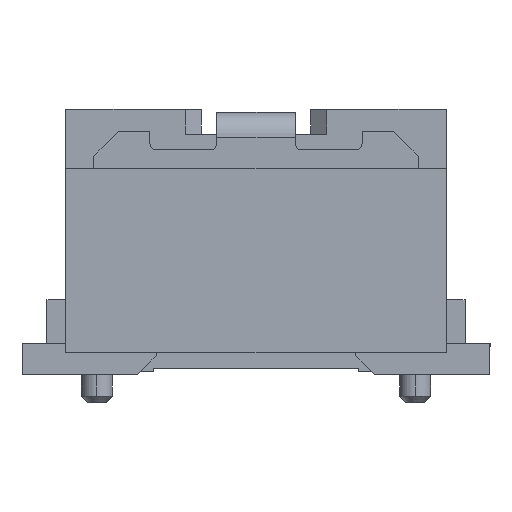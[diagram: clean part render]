
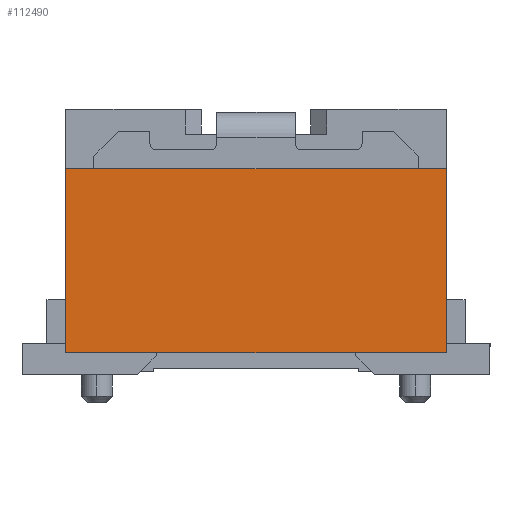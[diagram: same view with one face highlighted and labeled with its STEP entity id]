
A CAD part, left-side view. The second image highlights one B-rep face of the part: STEP entity #112490.
In plain terms, the highlighted planar face has unit normal (-1, 0, 0) as drawn and (1, 0, 0) by its records, which use the part's own axes.
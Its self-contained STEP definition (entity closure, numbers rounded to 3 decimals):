
#111740=CARTESIAN_POINT('',(13.013,-0.5,
-3.7));
#111750=VERTEX_POINT('',#111740);
#111840=CARTESIAN_POINT('',(13.013,-3.45,
-3.7));
#111850=VERTEX_POINT('',#111840);
#111880=CARTESIAN_POINT('',(13.013,0.,-3.7));
#111890=DIRECTION('',(0.,-1.,0.));
#111900=VECTOR('',#111890,1.);
#111910=LINE('',#111880,#111900);
#111920=EDGE_CURVE('',#111750,#111850,#111910,.T.);
#112190=CARTESIAN_POINT('',(13.013,-0.426,
-3.853));
#112200=DIRECTION('',(1.,0.,0.));
#112210=DIRECTION('',(0.,-1.,0.));
#112220=AXIS2_PLACEMENT_3D('',#112190,#112200,#112210);
#112230=PLANE('',#112220);
#112240=CARTESIAN_POINT('',(13.013,-3.45,0.));
#112250=DIRECTION('',(0.,0.,1.));
#112260=VECTOR('',#112250,1.);
#112270=LINE('',#112240,#112260);
#112280=CARTESIAN_POINT('',(13.013,-3.45,
2.4));
#112290=VERTEX_POINT('',#112280);
#112300=EDGE_CURVE('',#111850,#112290,#112270,.T.);
#112310=ORIENTED_EDGE('',*,*,#112300,.F.);
#112320=CARTESIAN_POINT('',(13.013,0.,2.4));
#112330=DIRECTION('',(0.,1.,0.));
#112340=VECTOR('',#112330,1.);
#112350=LINE('',#112320,#112340);
#112360=CARTESIAN_POINT('',(13.013,-0.5,
2.4));
#112370=VERTEX_POINT('',#112360);
#112380=EDGE_CURVE('',#112290,#112370,#112350,.T.);
#112390=ORIENTED_EDGE('',*,*,#112380,.F.);
#112400=CARTESIAN_POINT('',(13.013,-0.5,0.));
#112410=DIRECTION('',(0.,0.,-1.));
#112420=VECTOR('',#112410,1.);
#112430=LINE('',#112400,#112420);
#112440=EDGE_CURVE('',#112370,#111750,#112430,.T.);
#112450=ORIENTED_EDGE('',*,*,#112440,.F.);
#112460=ORIENTED_EDGE('',*,*,#111920,.F.);
#112470=EDGE_LOOP('',(#112460,#112450,#112390,#112310));
#112480=FACE_OUTER_BOUND('',#112470,.T.);
#112490=ADVANCED_FACE('',(#112480),#112230,.T.);
